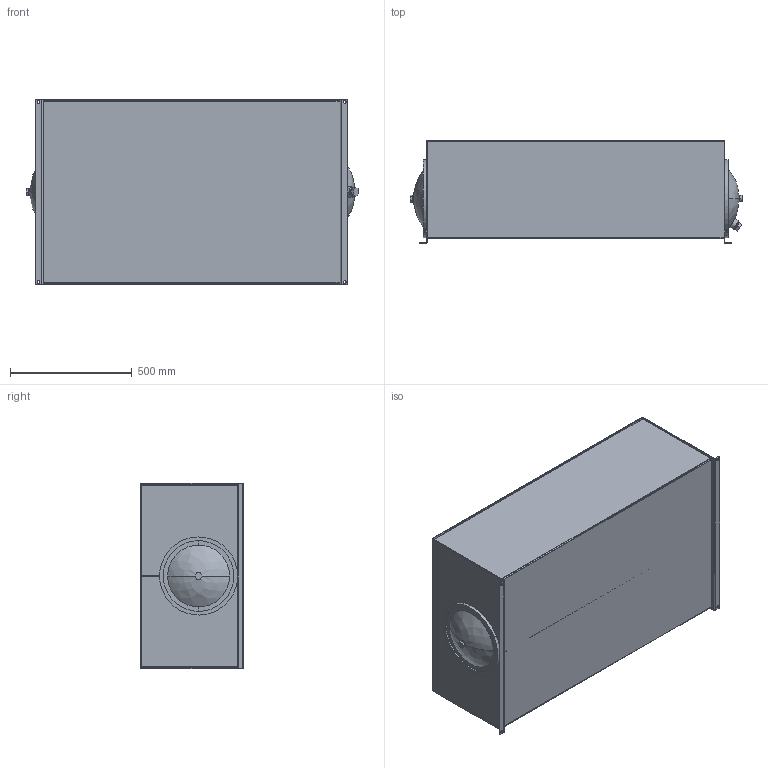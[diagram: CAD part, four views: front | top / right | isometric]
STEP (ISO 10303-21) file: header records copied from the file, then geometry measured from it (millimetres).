
FILE_DESCRIPTION (( 'STEP AP214' ), '1' );
FILE_NAME ('TH-80.STEP', '2026-04-22T18:11:28', ( '' ), ( '' ), 'SwSTEP 2.0', 'SolidWorks 2026', '' );
FILE_SCHEMA (( 'AUTOMOTIVE_DESIGN' ));
Length unit declared in the file: inch
Products named in the file (12): DRAIN; TH-80-BDY; 0.625 - 11 BAFFLE NUT; CRUSH WASHER; TL-ECD-12; 12.00 END COVER WITH DRAIN; TH-80-TOP; 0.625 - 11 HEX BOLT; TH-80-BFL; 12.00 GASKET; TL-EC-12; TH-80
Assembly tree (11 placements, depth 3):
  TH-80
    TH-80-TOP
    TH-80-BDY
    TH-80-BFL
    TL-ECD-12
      0.625 - 11 HEX BOLT
      0.625 - 11 BAFFLE NUT
      12.00 GASKET
      CRUSH WASHER
      12.00 END COVER WITH DRAIN
      DRAIN
    TL-EC-12
Bounding box: 1363.2 x 422.27 x 762 mm (x, y, z)
Volume: 13750266.7 mm3; surface area: 8231931.1 mm2
Topology: 10 solids, 16 shells, 222 faces, 523 edges, 332 vertices
Faces by surface type: plane 118, cylinder 88, bspline 8, cone 8
Entity records: 7076 total; most frequent: CARTESIAN_POINT 1399, DIRECTION 1173, ORIENTED_EDGE 1016, EDGE_CURVE 523, AXIS2_PLACEMENT_3D 432, VERTEX_POINT 332, VECTOR 309, LINE 309
